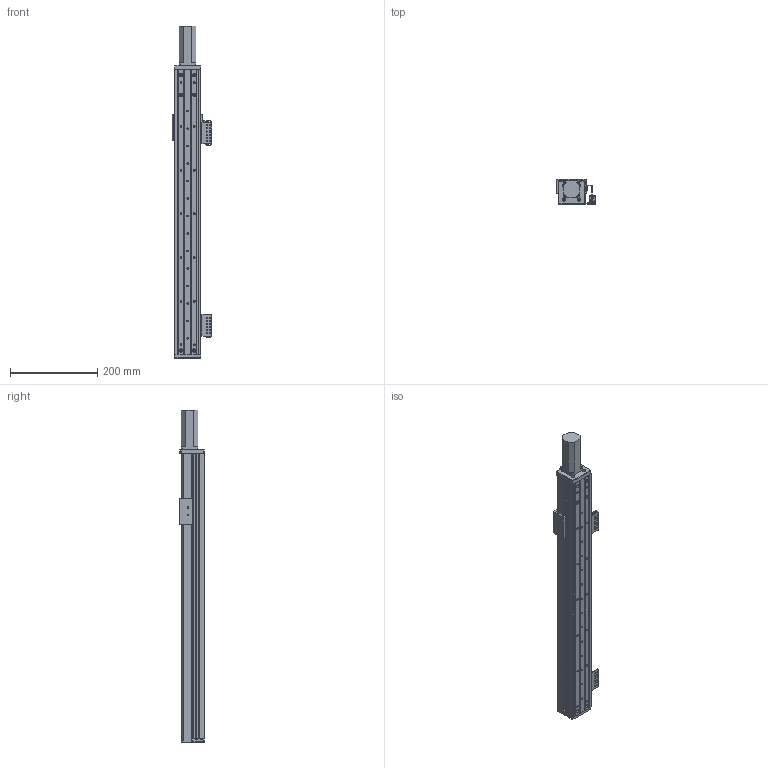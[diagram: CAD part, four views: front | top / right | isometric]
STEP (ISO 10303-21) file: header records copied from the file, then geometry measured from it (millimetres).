
FILE_DESCRIPTION (( 'STEP AP203' ), '1' );
FILE_NAME ('RY60FB-L1210-300-MK.SLDASM_450.step', '2021-02-22T08:25:34', ( '盈信电脑' ), ( '东莞市道滘镇水果街19号' ), 'SwSTEP 2.0', 'SolidWorks 2012', '' );
FILE_SCHEMA (( 'CONFIG_CONTROL_DESIGN' ));
Length unit declared in the file: millimetre
Products named in the file (14): RY60FB-L1210-300-MK.SLDASM_450; RY60FB-674嫖萇耀輸; 覜茼ん674; RY80俋离覜茼え; RY60FB-感应器674光电安装座; RY60FB綴裔啣; 侂狟100W; RY60FB前盖板100(M3); RY60FB-300-奻裔-MK_450; 滅袉蝶18-10; RY60FB-300-菁釱-MK_450; 滅袉蝶18-20; RY60FB-臏賑輸
Assembly tree (18 placements, depth 3):
  RY60FB-L1210-300-MK.SLDASM_450
    RY60FB-300-菁釱-MK_450
    RY60FB-臏賑輸
    滅袉蝶18-20  x2
    滅袉蝶18-10  x2
    RY60FB-300-奻裔-MK_450
    RY60FB前盖板100(M3)
    侂狟100W
    RY60FB綴裔啣
    RY60FB-674嫖萇耀輸
      RY60FB-感应器674光电安装座
      覜茼ん674  x2
    RY80俋离覜茼え
    RY60FB-674嫖萇耀輸
      RY60FB-感应器674光电安装座
      覜茼ん674
Bounding box: 90 x 58.5 x 760 mm (x, y, z)
Volume: 853367.8 mm3; surface area: 459530.9 mm2
Topology: 16 solids, 16 shells, 969 faces, 2674 edges, 1727 vertices
Faces by surface type: plane 474, cylinder 428, cone 67
Entity records: 27286 total; most frequent: CARTESIAN_POINT 5105, DIRECTION 4360, ORIENTED_EDGE 4248, EDGE_CURVE 2124, AXIS2_PLACEMENT_3D 1542, VERTEX_POINT 1383, LINE 1276, VECTOR 1276
